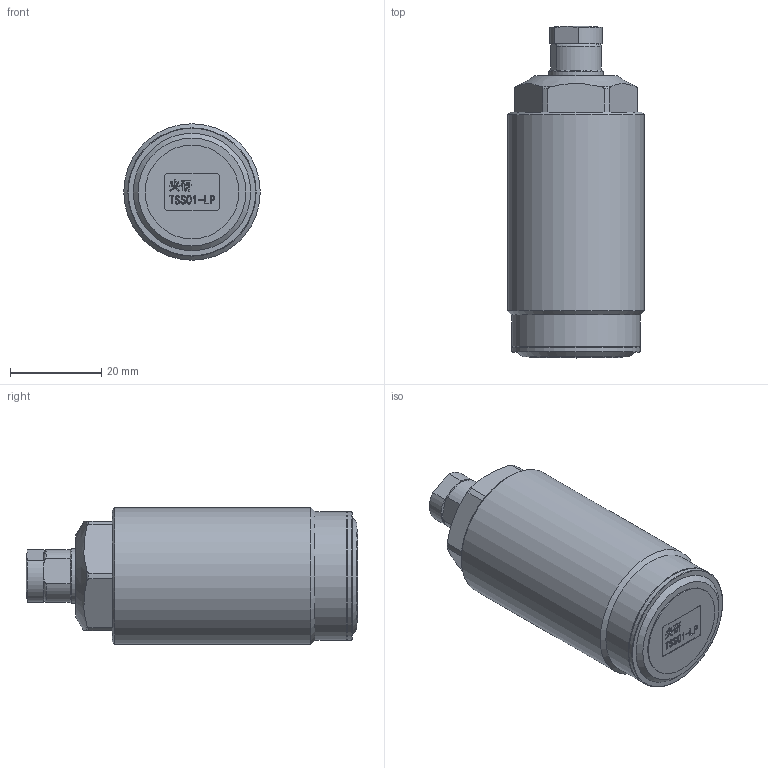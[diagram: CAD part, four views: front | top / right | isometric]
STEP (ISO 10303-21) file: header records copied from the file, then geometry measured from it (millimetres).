
FILE_DESCRIPTION(/* description */ (''),/* implementation_level */ '2;1');
FILE_NAME(/* name */ 'TSS01-LP.stp',/* time_stamp */ '2022-05-04T14:47:17+08:00',/* author */ (''),/* organization */ (''),/* preprocessor_version */ 'ST-DEVELOPER v16.7',/* originating_system */ 'SIEMENS PLM Software NX 12.0',/* authorisation */ '');
FILE_SCHEMA (('AUTOMOTIVE_DESIGN { 1 0 10303 214 3 1 1 1 }'));
Length unit declared in the file: millimetre
Products named in the file (1): TSS01-LP
Bounding box: 30 x 72.94 x 30 mm (x, y, z)
Volume: 41607.7 mm3; surface area: 9977.7 mm2
Topology: 3 solids, 3 shells, 247 faces, 628 edges, 412 vertices
Faces by surface type: plane 132, extrusion 66, cylinder 25, torus 15, cone 8, sphere 1
Full cylindrical faces by diameter (mm): 4.3 x1, 6 x1, 8 x2, 8.3 x1, 12 x2, 20.58 x1, 28.2 x2, 30 x1
Entity records: 9749 total; most frequent: CARTESIAN_POINT 2861, ORIENTED_EDGE 1196, DIRECTION 948, EDGE_CURVE 598, VECTOR 436, VERTEX_POINT 410, LINE 370, EDGE_LOOP 300
